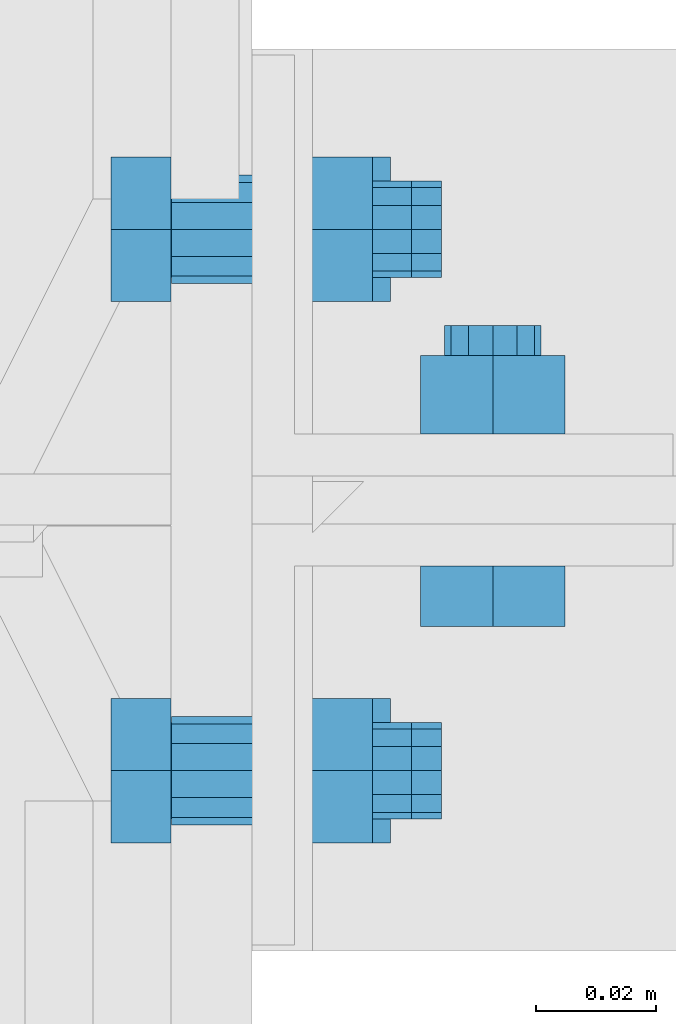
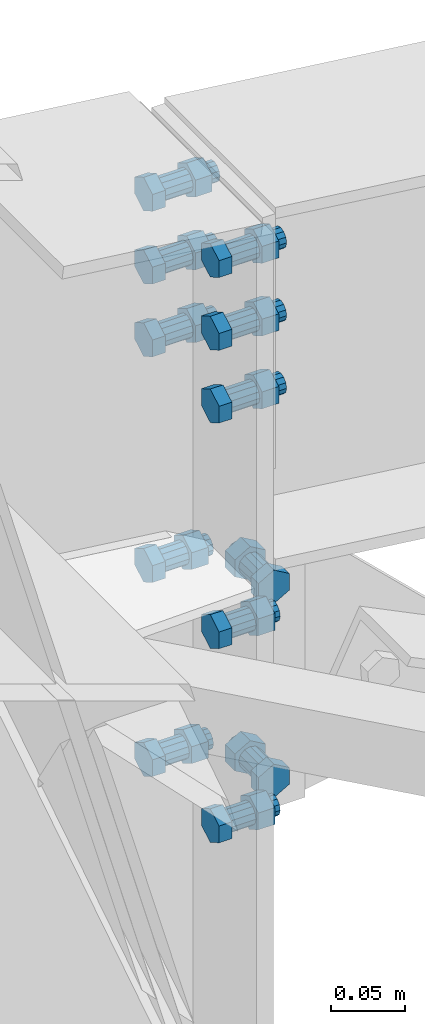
# One storey, part 284 of 3134: 4 mechanical fasteners, 3 elements without a shape of their own.
"""IFC2X3 building model written with IfcOpenShell, lengths in millimetres."""

from ifc_helpers import new_model, si_unit, frame, origin_with_axes, place, context, subcontext, project, spatial, faceted_brep, source, transform, mapped, material, type_object, element, aggregate, save


model = new_model("IFC2X3")

# Units and contexts
model_context = context("Model", 3, precision=1e-05, world=origin_with_axes())
body_context = subcontext(model_context, "Body", "Model", "MODEL_VIEW")
ifc_project = project(units=[si_unit("LENGTHUNIT", "METRE", prefix="MILLI"), si_unit("AREAUNIT", "SQUARE_METRE"), si_unit("VOLUMEUNIT", "CUBIC_METRE"), si_unit("MASSUNIT", "GRAM", prefix="KILO"), si_unit("TIMEUNIT", "SECOND"), si_unit("PLANEANGLEUNIT", "RADIAN"), si_unit("SOLIDANGLEUNIT", "STERADIAN"), si_unit("THERMODYNAMICTEMPERATUREUNIT", "DEGREE_CELSIUS"), si_unit("LUMINOUSINTENSITYUNIT", "LUMEN")], contexts=[model_context])

# Site, building, storey
site_placement = place(None, origin_with_axes())
site = spatial("IfcSite", under=ifc_project, at=site_placement, CompositionType="ELEMENT")
building_placement = place(site_placement, origin_with_axes())
building = spatial("IfcBuilding", under=site, at=building_placement, Name="Undefined", CompositionType="ELEMENT")
storey_placement = place(building_placement, origin_with_axes())
storey = spatial("IfcBuildingStorey", under=building, at=storey_placement, Name="Undefined", CompositionType="ELEMENT", Elevation=0.0)

# Assembly, mechanical fastener
assembly_1_placement = place(storey_placement, origin_with_axes())
assembly_1 = element("IfcElementAssembly", 1, at=assembly_1_placement, inside=storey, Name="IPE400", AssemblyPlace="NOTDEFINED", PredefinedType="RIGID_FRAME")
ifc_material = material(Name="8.8")
mechanical_fastener_type = type_object("IfcMechanicalFastenerType", Name="Bolt assembly")
shared_shape_1 = source(origin_with_axes(), body_context, "Body", "Brep", [
    faceted_brep([(13.856406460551, -33.499999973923, 0.0), (6.92820323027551, -33.499999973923, 12.0), (-6.92820323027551, -33.499999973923, 12.0), (-13.856406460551, -33.499999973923, 1.69692038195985e-15), (-6.92820323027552, -33.499999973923, -12.0), (6.9282032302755, -33.499999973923, -12.0), (6.9282032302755, -23.499999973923, -12.0), (-6.92820323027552, -23.499999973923, -12.0), (-13.856406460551, -23.499999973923, 1.69692038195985e-15), (-6.92820323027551, -23.499999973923, 12.0), (6.92820323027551, -23.499999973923, 12.0), (13.856406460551, -23.499999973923, 0.0), (8.0, -23.499999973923, 0.0), (6.92820323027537, -23.499999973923, 4.00000000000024), (3.99999999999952, -23.499999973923, 6.92820323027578), (-8.29068785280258e-13, -23.499999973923, 8.0), (-4.00000000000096, -23.499999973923, 6.92820323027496), (-6.9282032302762, -23.499999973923, 3.99999999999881), (-8.0, -23.499999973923, -1.65813757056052e-12), (-6.92820323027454, -23.499999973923, -4.00000000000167), (-3.99999999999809, -23.499999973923, -6.92820323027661), (2.47832457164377e-12, -23.499999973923, -8.0), (4.00000000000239, -23.499999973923, -6.92820323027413), (6.92820323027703, -23.499999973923, -3.99999999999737), (6.92820323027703, 21.500000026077, -3.99999999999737), (4.00000000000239, 21.500000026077, -6.92820323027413), (2.47832457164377e-12, 21.500000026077, -8.0), (-3.99999999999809, 21.500000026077, -6.92820323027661), (-6.92820323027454, 21.500000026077, -4.00000000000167), (-8.0, 21.500000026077, -1.65813757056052e-12), (-6.9282032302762, 21.500000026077, 3.99999999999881), (-4.00000000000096, 21.500000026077, 6.92820323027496), (-8.29068785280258e-13, 21.500000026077, 8.0), (3.99999999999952, 21.500000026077, 6.92820323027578), (6.92820323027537, 21.500000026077, 4.00000000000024), (8.0, 21.500000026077, 0.0), (13.856406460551, 0.0, 0.0), (6.92820323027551, 0.0, 12.0), (-6.92820323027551, 0.0, 12.0), (-13.856406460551, 0.0, 1.69692038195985e-15), (-6.92820323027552, 0.0, -12.0), (6.9282032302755, 0.0, -12.0), (6.9282032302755, 12.9999996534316, -12.0), (-6.92820323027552, 12.9999996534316, -12.0), (-13.856406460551, 12.9999996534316, 1.69692038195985e-15), (-6.92820323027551, 12.9999996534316, 12.0), (6.92820323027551, 12.9999996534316, 12.0), (13.856406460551, 12.9999996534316, 0.0)], [[[0, 1, 2, 3, 4, 5]], [[6, 7, 8, 9, 10, 11]], [[0, 11, 10, 1]], [[1, 10, 9, 2]], [[2, 9, 8, 3]], [[3, 8, 7, 4]], [[4, 7, 6, 5]], [[5, 6, 11, 0]], [[12, 13, 14, 15, 16, 17, 18, 19, 20, 21, 22, 23]], [[24, 25, 26, 27, 28, 29, 30, 31, 32, 33, 34, 35]], [[12, 35, 34, 13]], [[13, 34, 33, 14]], [[14, 33, 32, 15]], [[15, 32, 31, 16]], [[16, 31, 30, 17]], [[17, 30, 29, 18]], [[18, 29, 28, 19]], [[19, 28, 27, 20]], [[20, 27, 26, 21]], [[21, 26, 25, 22]], [[22, 25, 24, 23]], [[23, 24, 35, 12]], [[36, 37, 38, 39, 40, 41]], [[42, 43, 44, 45, 46, 47]], [[36, 47, 46, 37]], [[37, 46, 45, 38]], [[38, 45, 44, 39]], [[39, 44, 43, 40]], [[40, 43, 42, 41]], [[41, 42, 47, 36]]]),
    faceted_brep([(9.0, -10.1000003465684, 0.0), (7.79422863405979, -10.1000003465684, 4.50000000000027), (4.49999999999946, -10.1000003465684, 7.79422863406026), (-9.3270238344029e-13, -10.1000003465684, 9.0), (-4.50000000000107, -10.1000003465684, 7.79422863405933), (-7.79422863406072, -10.1000003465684, 4.49999999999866), (-9.0, -10.1000003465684, -1.86540476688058e-12), (-7.79422863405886, -10.1000003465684, -4.50000000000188), (-4.49999999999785, -10.1000003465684, -7.79422863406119), (2.78811514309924e-12, -10.1000003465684, -9.0), (4.50000000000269, -10.1000003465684, -7.7942286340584), (7.79422863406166, -10.1000003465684, -4.49999999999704), (7.79422863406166, -3.46568413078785e-07, -4.49999999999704), (4.50000000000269, -3.46568413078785e-07, -7.7942286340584), (2.78811514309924e-12, -3.46568413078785e-07, -9.0), (-4.49999999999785, -3.46568413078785e-07, -7.79422863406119), (-7.79422863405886, -3.46568413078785e-07, -4.50000000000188), (-9.0, -3.46568413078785e-07, -1.86540476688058e-12), (-7.79422863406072, -3.46568413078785e-07, 4.49999999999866), (-4.50000000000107, -3.46568413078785e-07, 7.79422863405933), (-9.3270238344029e-13, -3.46568413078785e-07, 9.0), (4.49999999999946, -3.46568413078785e-07, 7.79422863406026), (7.79422863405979, -3.46568413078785e-07, 4.50000000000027), (9.0, -3.46568413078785e-07, 0.0), (9.0, -23.399999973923, 0.0), (7.79422863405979, -23.399999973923, 4.50000000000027), (4.49999999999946, -23.399999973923, 7.79422863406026), (-9.3270238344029e-13, -23.399999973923, 9.0), (-4.50000000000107, -23.399999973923, 7.79422863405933), (-7.79422863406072, -23.399999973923, 4.49999999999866), (-9.0, -23.399999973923, -1.86540476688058e-12), (-7.79422863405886, -23.399999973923, -4.50000000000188), (-4.49999999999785, -23.399999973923, -7.79422863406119), (2.78811514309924e-12, -23.399999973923, -9.0), (4.50000000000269, -23.399999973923, -7.7942286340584), (7.79422863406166, -23.399999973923, -4.49999999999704), (7.79422863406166, -9.89999997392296, -4.49999999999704), (4.50000000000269, -9.89999997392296, -7.7942286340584), (2.78811514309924e-12, -9.89999997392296, -9.0), (-4.49999999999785, -9.89999997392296, -7.79422863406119), (-7.79422863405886, -9.89999997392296, -4.50000000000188), (-9.0, -9.89999997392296, -1.86540476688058e-12), (-7.79422863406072, -9.89999997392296, 4.49999999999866), (-4.50000000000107, -9.89999997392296, 7.79422863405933), (-9.3270238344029e-13, -9.89999997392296, 9.0), (4.49999999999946, -9.89999997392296, 7.79422863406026), (7.79422863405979, -9.89999997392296, 4.50000000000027), (9.0, -9.89999997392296, 0.0)], [[[0, 1, 2, 3, 4, 5, 6, 7, 8, 9, 10, 11]], [[12, 13, 14, 15, 16, 17, 18, 19, 20, 21, 22, 23]], [[0, 23, 22, 1]], [[1, 22, 21, 2]], [[2, 21, 20, 3]], [[3, 20, 19, 4]], [[4, 19, 18, 5]], [[5, 18, 17, 6]], [[6, 17, 16, 7]], [[7, 16, 15, 8]], [[8, 15, 14, 9]], [[9, 14, 13, 10]], [[10, 13, 12, 11]], [[11, 12, 23, 0]], [[24, 25, 26, 27, 28, 29, 30, 31, 32, 33, 34, 35]], [[36, 37, 38, 39, 40, 41, 42, 43, 44, 45, 46, 47]], [[24, 47, 46, 25]], [[25, 46, 45, 26]], [[26, 45, 44, 27]], [[27, 44, 43, 28]], [[28, 43, 42, 29]], [[29, 42, 41, 30]], [[30, 41, 40, 31]], [[31, 40, 39, 32]], [[32, 39, 38, 33]], [[33, 38, 37, 34]], [[34, 37, 36, 35]], [[35, 36, 47, 24]]]),
])
mechanical_fastener_1_placement = place(assembly_1_placement, frame((44475.0000003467, 61050.0, 5615.41113576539), z_axis=(0.0, 1.0, 0.0), x_axis=(0.0, 0.0, 1.0)))
mechanical_fastener_1 = element("IfcMechanicalFastener", 2, at=mechanical_fastener_1_placement, type_object=mechanical_fastener_type, material=ifc_material, Name="Bolt assembly", NominalDiameter=16.0, NominalLength=45.0, context=body_context, shape_type="MappedRepresentation", body=[
    mapped(shared_shape_1, transform((0.0, 0.0, -45.0))),
    mapped(shared_shape_1, transform((60.0, 0.0, -45.0))),
    mapped(shared_shape_1, transform((120.0, 0.0, -45.0))),
    mapped(shared_shape_1, transform((0.0, 0.0, 45.0))),
    mapped(shared_shape_1, transform((60.0, 0.0, 45.0))),
    mapped(shared_shape_1, transform((120.0, 0.0, 45.0))),
])
aggregate(assembly_1, [mechanical_fastener_1])

assembly_2_placement = place(storey_placement, origin_with_axes())
assembly_2 = element("IfcElementAssembly", 3, at=assembly_2_placement, inside=storey, AssemblyPlace="NOTDEFINED", PredefinedType="RIGID_FRAME")
shared_shape_2 = source(origin_with_axes(), body_context, "Body", "Brep", [
    faceted_brep([(13.856406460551, -21.0000017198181, 0.0), (6.92820323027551, -21.0000017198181, 12.0), (-6.92820323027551, -21.0000017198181, 12.0), (-13.856406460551, -21.0000017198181, 1.69692038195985e-15), (-6.92820323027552, -21.0000017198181, -12.0), (6.9282032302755, -21.0000017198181, -12.0), (6.9282032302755, -11.0000017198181, -12.0), (-6.92820323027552, -11.0000017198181, -12.0), (-13.856406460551, -11.0000017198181, 1.69692038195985e-15), (-6.92820323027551, -11.0000017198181, 12.0), (6.92820323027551, -11.0000017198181, 12.0), (13.856406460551, -11.0000017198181, 0.0), (8.0, -11.0000017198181, 0.0), (6.92820323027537, -11.0000017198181, 4.00000000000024), (3.99999999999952, -11.0000017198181, 6.92820323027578), (-8.29068785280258e-13, -11.0000017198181, 8.0), (-4.00000000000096, -11.0000017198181, 6.92820323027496), (-6.9282032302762, -11.0000017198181, 3.99999999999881), (-8.0, -11.0000017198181, -1.65813757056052e-12), (-6.92820323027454, -11.0000017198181, -4.00000000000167), (-3.99999999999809, -11.0000017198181, -6.92820323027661), (2.47832457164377e-12, -11.0000017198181, -8.0), (4.00000000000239, -11.0000017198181, -6.92820323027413), (6.92820323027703, -11.0000017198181, -3.99999999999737), (6.92820323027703, 29.0, -3.99999999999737), (4.00000000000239, 29.0, -6.92820323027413), (2.47832457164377e-12, 29.0, -8.0), (-3.99999999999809, 29.0, -6.92820323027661), (-6.92820323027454, 29.0, -4.00000000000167), (-8.0, 29.0, -1.65813757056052e-12), (-6.9282032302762, 29.0, 3.99999999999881), (-4.00000000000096, 29.0, 6.92820323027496), (-8.29068785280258e-13, 29.0, 8.0), (3.99999999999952, 29.0, 6.92820323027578), (6.92820323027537, 29.0, 4.00000000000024), (8.0, 29.0, 0.0), (13.856406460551, 10.9999982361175, 0.0), (6.92820323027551, 10.9999982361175, 12.0), (-6.92820323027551, 10.9999982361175, 12.0), (-13.856406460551, 10.9999982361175, 1.69692038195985e-15), (-6.92820323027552, 10.9999982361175, -12.0), (6.9282032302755, 10.9999982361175, -12.0), (6.9282032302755, 23.9999999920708, -12.0), (-6.92820323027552, 23.9999999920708, -12.0), (-13.856406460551, 23.9999999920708, 1.69692038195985e-15), (-6.92820323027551, 23.9999999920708, 12.0), (6.92820323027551, 23.9999999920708, 12.0), (13.856406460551, 23.9999999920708, 0.0)], [[[0, 1, 2, 3, 4, 5]], [[6, 7, 8, 9, 10, 11]], [[0, 11, 10, 1]], [[1, 10, 9, 2]], [[2, 9, 8, 3]], [[3, 8, 7, 4]], [[4, 7, 6, 5]], [[5, 6, 11, 0]], [[12, 13, 14, 15, 16, 17, 18, 19, 20, 21, 22, 23]], [[24, 25, 26, 27, 28, 29, 30, 31, 32, 33, 34, 35]], [[12, 35, 34, 13]], [[13, 34, 33, 14]], [[14, 33, 32, 15]], [[15, 32, 31, 16]], [[16, 31, 30, 17]], [[17, 30, 29, 18]], [[18, 29, 28, 19]], [[19, 28, 27, 20]], [[20, 27, 26, 21]], [[21, 26, 25, 22]], [[22, 25, 24, 23]], [[23, 24, 35, 12]], [[36, 37, 38, 39, 40, 41]], [[42, 43, 44, 45, 46, 47]], [[36, 47, 46, 37]], [[37, 46, 45, 38]], [[38, 45, 44, 39]], [[39, 44, 43, 40]], [[40, 43, 42, 41]], [[41, 42, 47, 36]]]),
    faceted_brep([(9.0, -3.99999624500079, 0.0), (7.79422863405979, -3.99999624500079, 4.50000000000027), (4.49999999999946, -3.99999624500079, 7.79422863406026), (-9.3270238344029e-13, -3.99999624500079, 9.0), (-4.50000000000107, -3.99999624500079, 7.79422863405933), (-7.79422863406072, -3.99999624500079, 4.49999999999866), (-9.0, -3.99999624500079, -1.86540476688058e-12), (-7.79422863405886, -3.99999624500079, -4.50000000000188), (-4.49999999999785, -3.99999624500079, -7.79422863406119), (2.78811514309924e-12, -3.99999624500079, -9.0), (4.50000000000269, -3.99999624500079, -7.7942286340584), (7.79422863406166, -3.99999624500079, -4.49999999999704), (7.79422863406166, 4.00000375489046, -4.49999999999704), (4.50000000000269, 4.00000375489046, -7.7942286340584), (2.78811514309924e-12, 4.00000375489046, -9.0), (-4.49999999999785, 4.00000375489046, -7.79422863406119), (-7.79422863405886, 4.00000375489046, -4.50000000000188), (-9.0, 4.00000375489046, -1.86540476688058e-12), (-7.79422863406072, 4.00000375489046, 4.49999999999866), (-4.50000000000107, 4.00000375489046, 7.79422863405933), (-9.3270238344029e-13, 4.00000375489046, 9.0), (4.49999999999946, 4.00000375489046, 7.79422863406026), (7.79422863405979, 4.00000375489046, 4.50000000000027), (9.0, 4.00000375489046, 0.0), (9.0, -10.9000017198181, 0.0), (7.79422863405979, -10.9000017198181, 4.50000000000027), (4.49999999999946, -10.9000017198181, 7.79422863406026), (-9.3270238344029e-13, -10.9000017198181, 9.0), (-4.50000000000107, -10.9000017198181, 7.79422863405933), (-7.79422863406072, -10.9000017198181, 4.49999999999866), (-9.0, -10.9000017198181, -1.86540476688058e-12), (-7.79422863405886, -10.9000017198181, -4.50000000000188), (-4.49999999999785, -10.9000017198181, -7.79422863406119), (2.78811514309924e-12, -10.9000017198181, -9.0), (4.50000000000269, -10.9000017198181, -7.7942286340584), (7.79422863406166, -10.9000017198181, -4.49999999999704), (7.79422863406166, -3.9, -4.49999999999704), (4.50000000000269, -3.9, -7.7942286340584), (2.78811514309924e-12, -3.9, -9.0), (-4.49999999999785, -3.9, -7.79422863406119), (-7.79422863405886, -3.9, -4.50000000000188), (-9.0, -3.9, -1.86540476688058e-12), (-7.79422863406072, -3.9, 4.49999999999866), (-4.50000000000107, -3.9, 7.79422863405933), (-9.3270238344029e-13, -3.9, 9.0), (4.49999999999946, -3.9, 7.79422863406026), (7.79422863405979, -3.9, 4.50000000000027), (9.0, -3.9, 0.0), (9.0, 3.9, 0.0), (7.79422863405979, 3.9, 4.50000000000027), (4.49999999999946, 3.9, 7.79422863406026), (-9.3270238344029e-13, 3.9, 9.0), (-4.50000000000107, 3.9, 7.79422863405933), (-7.79422863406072, 3.9, 4.49999999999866), (-9.0, 3.9, -1.86540476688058e-12), (-7.79422863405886, 3.9, -4.50000000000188), (-4.49999999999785, 3.9, -7.79422863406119), (2.78811514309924e-12, 3.9, -9.0), (4.50000000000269, 3.9, -7.7942286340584), (7.79422863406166, 3.9, -4.49999999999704), (7.79422863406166, 10.9999982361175, -4.49999999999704), (4.50000000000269, 10.9999982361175, -7.7942286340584), (2.78811514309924e-12, 10.9999982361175, -9.0), (-4.49999999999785, 10.9999982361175, -7.79422863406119), (-7.79422863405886, 10.9999982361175, -4.50000000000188), (-9.0, 10.9999982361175, -1.86540476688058e-12), (-7.79422863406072, 10.9999982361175, 4.49999999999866), (-4.50000000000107, 10.9999982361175, 7.79422863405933), (-9.3270238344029e-13, 10.9999982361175, 9.0), (4.49999999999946, 10.9999982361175, 7.79422863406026), (7.79422863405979, 10.9999982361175, 4.50000000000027), (9.0, 10.9999982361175, 0.0)], [[[0, 1, 2, 3, 4, 5, 6, 7, 8, 9, 10, 11]], [[12, 13, 14, 15, 16, 17, 18, 19, 20, 21, 22, 23]], [[0, 23, 22, 1]], [[1, 22, 21, 2]], [[2, 21, 20, 3]], [[3, 20, 19, 4]], [[4, 19, 18, 5]], [[5, 18, 17, 6]], [[6, 17, 16, 7]], [[7, 16, 15, 8]], [[8, 15, 14, 9]], [[9, 14, 13, 10]], [[10, 13, 12, 11]], [[11, 12, 23, 0]], [[24, 25, 26, 27, 28, 29, 30, 31, 32, 33, 34, 35]], [[36, 37, 38, 39, 40, 41, 42, 43, 44, 45, 46, 47]], [[24, 47, 46, 25]], [[25, 46, 45, 26]], [[26, 45, 44, 27]], [[27, 44, 43, 28]], [[28, 43, 42, 29]], [[29, 42, 41, 30]], [[30, 41, 40, 31]], [[31, 40, 39, 32]], [[32, 39, 38, 33]], [[33, 38, 37, 34]], [[34, 37, 36, 35]], [[35, 36, 47, 24]], [[48, 49, 50, 51, 52, 53, 54, 55, 56, 57, 58, 59]], [[60, 61, 62, 63, 64, 65, 66, 67, 68, 69, 70, 71]], [[48, 71, 70, 49]], [[49, 70, 69, 50]], [[50, 69, 68, 51]], [[51, 68, 67, 52]], [[52, 67, 66, 53]], [[53, 66, 65, 54]], [[54, 65, 64, 55]], [[55, 64, 63, 56]], [[56, 63, 62, 57]], [[57, 62, 61, 58]], [[58, 61, 60, 59]], [[59, 60, 71, 48]]]),
])
mechanical_fastener_2_placement = place(assembly_2_placement, frame((44504.9999999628, 61050.0, 5429.36590687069), z_axis=(1.0, 0.0, 0.0), x_axis=(0.0, 0.0, -1.0)))
mechanical_fastener_2 = element("IfcMechanicalFastener", 4, at=mechanical_fastener_2_placement, type_object=mechanical_fastener_type, material=ifc_material, Name="Bolt assembly", NominalDiameter=16.0, NominalLength=40.0, context=body_context, shape_type="MappedRepresentation", body=[
    mapped(shared_shape_2, transform((0.0, 0.0, 0.0))),
    mapped(shared_shape_2, transform((160.0, 0.0, 0.0))),
])

assembly_3_placement = place(storey_placement, origin_with_axes())
assembly_3 = element("IfcElementAssembly", 5, at=assembly_3_placement, inside=storey, AssemblyPlace="NOTDEFINED", PredefinedType="RIGID_FRAME")
shared_shape_3 = source(origin_with_axes(), body_context, "Body", "Brep", [
    faceted_brep([(13.856406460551, -23.499999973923, 0.0), (6.92820323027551, -23.499999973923, 12.0), (-6.92820323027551, -23.499999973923, 12.0), (-13.856406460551, -23.499999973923, 1.69692038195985e-15), (-6.92820323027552, -23.499999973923, -12.0), (6.9282032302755, -23.499999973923, -12.0), (6.9282032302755, -13.4999999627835, -12.0), (-6.92820323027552, -13.4999999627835, -12.0), (-13.856406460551, -13.4999999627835, 1.69692038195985e-15), (-6.92820323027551, -13.4999999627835, 12.0), (6.92820323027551, -13.4999999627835, 12.0), (13.856406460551, -13.4999999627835, 0.0), (8.0, -13.4999999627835, 0.0), (6.92820323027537, -13.4999999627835, 4.00000000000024), (3.99999999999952, -13.4999999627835, 6.92820323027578), (-8.29068785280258e-13, -13.4999999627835, 8.0), (-4.00000000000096, -13.4999999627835, 6.92820323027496), (-6.9282032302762, -13.4999999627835, 3.99999999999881), (-8.0, -13.4999999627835, -1.65813757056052e-12), (-6.92820323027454, -13.4999999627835, -4.00000000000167), (-3.99999999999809, -13.4999999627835, -6.92820323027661), (2.47832457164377e-12, -13.4999999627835, -8.0), (4.00000000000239, -13.4999999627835, -6.92820323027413), (6.92820323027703, -13.4999999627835, -3.99999999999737), (6.92820323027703, 26.5000000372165, -3.99999999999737), (4.00000000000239, 26.5000000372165, -6.92820323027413), (2.47832457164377e-12, 26.5000000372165, -8.0), (-3.99999999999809, 26.5000000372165, -6.92820323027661), (-6.92820323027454, 26.5000000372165, -4.00000000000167), (-8.0, 26.5000000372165, -1.65813757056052e-12), (-6.9282032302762, 26.5000000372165, 3.99999999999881), (-4.00000000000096, 26.5000000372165, 6.92820323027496), (-8.29068785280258e-13, 26.5000000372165, 8.0), (3.99999999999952, 26.5000000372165, 6.92820323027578), (6.92820323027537, 26.5000000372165, 4.00000000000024), (8.0, 26.5000000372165, 0.0), (13.856406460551, 7.0, 0.0), (6.92820323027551, 7.0, 12.0), (-6.92820323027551, 7.0, 12.0), (-13.856406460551, 7.0, 1.69692038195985e-15), (-6.92820323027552, 7.0, -12.0), (6.9282032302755, 7.0, -12.0), (6.9282032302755, 20.0, -12.0), (-6.92820323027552, 20.0, -12.0), (-13.856406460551, 20.0, 1.69692038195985e-15), (-6.92820323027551, 20.0, 12.0), (6.92820323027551, 20.0, 12.0), (13.856406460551, 20.0, 0.0)], [[[0, 1, 2, 3, 4, 5]], [[6, 7, 8, 9, 10, 11]], [[0, 11, 10, 1]], [[1, 10, 9, 2]], [[2, 9, 8, 3]], [[3, 8, 7, 4]], [[4, 7, 6, 5]], [[5, 6, 11, 0]], [[12, 13, 14, 15, 16, 17, 18, 19, 20, 21, 22, 23]], [[24, 25, 26, 27, 28, 29, 30, 31, 32, 33, 34, 35]], [[12, 35, 34, 13]], [[13, 34, 33, 14]], [[14, 33, 32, 15]], [[15, 32, 31, 16]], [[16, 31, 30, 17]], [[17, 30, 29, 18]], [[18, 29, 28, 19]], [[19, 28, 27, 20]], [[20, 27, 26, 21]], [[21, 26, 25, 22]], [[22, 25, 24, 23]], [[23, 24, 35, 12]], [[36, 37, 38, 39, 40, 41]], [[42, 43, 44, 45, 46, 47]], [[36, 47, 46, 37]], [[37, 46, 45, 38]], [[38, 45, 44, 39]], [[39, 44, 43, 40]], [[40, 43, 42, 41]], [[41, 42, 47, 36]]]),
    faceted_brep([(9.0, -13.3999999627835, 0.0), (7.79422863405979, -13.3999999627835, 4.50000000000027), (4.49999999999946, -13.3999999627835, 7.79422863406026), (-9.3270238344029e-13, -13.3999999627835, 9.0), (-4.50000000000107, -13.3999999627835, 7.79422863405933), (-7.79422863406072, -13.3999999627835, 4.49999999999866), (-9.0, -13.3999999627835, -1.86540476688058e-12), (-7.79422863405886, -13.3999999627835, -4.50000000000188), (-4.49999999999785, -13.3999999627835, -7.79422863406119), (2.78811514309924e-12, -13.3999999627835, -9.0), (4.50000000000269, -13.3999999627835, -7.7942286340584), (7.79422863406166, -13.3999999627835, -4.49999999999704), (7.79422863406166, 0.100000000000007, -4.49999999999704), (4.50000000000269, 0.100000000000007, -7.7942286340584), (2.78811514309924e-12, 0.100000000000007, -9.0), (-4.49999999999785, 0.100000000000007, -7.79422863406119), (-7.79422863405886, 0.100000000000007, -4.50000000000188), (-9.0, 0.100000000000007, -1.86540476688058e-12), (-7.79422863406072, 0.100000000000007, 4.49999999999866), (-4.50000000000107, 0.100000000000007, 7.79422863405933), (-9.3270238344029e-13, 0.100000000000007, 9.0), (4.49999999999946, 0.100000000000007, 7.79422863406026), (7.79422863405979, 0.100000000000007, 4.50000000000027), (9.0, 0.100000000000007, 0.0), (9.0, -0.1, 0.0), (7.79422863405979, -0.1, 4.50000000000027), (4.49999999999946, -0.1, 7.79422863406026), (-9.3270238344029e-13, -0.1, 9.0), (-4.50000000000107, -0.1, 7.79422863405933), (-7.79422863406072, -0.1, 4.49999999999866), (-9.0, -0.1, -1.86540476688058e-12), (-7.79422863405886, -0.1, -4.50000000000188), (-4.49999999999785, -0.1, -7.79422863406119), (2.78811514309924e-12, -0.1, -9.0), (4.50000000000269, -0.1, -7.7942286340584), (7.79422863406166, -0.1, -4.49999999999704), (7.79422863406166, 7.0, -4.49999999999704), (4.50000000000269, 7.0, -7.7942286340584), (2.78811514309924e-12, 7.0, -9.0), (-4.49999999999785, 7.0, -7.79422863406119), (-7.79422863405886, 7.0, -4.50000000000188), (-9.0, 7.0, -1.86540476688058e-12), (-7.79422863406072, 7.0, 4.49999999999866), (-4.50000000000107, 7.0, 7.79422863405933), (-9.3270238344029e-13, 7.0, 9.0), (4.49999999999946, 7.0, 7.79422863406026), (7.79422863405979, 7.0, 4.50000000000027), (9.0, 7.0, 0.0)], [[[0, 1, 2, 3, 4, 5, 6, 7, 8, 9, 10, 11]], [[12, 13, 14, 15, 16, 17, 18, 19, 20, 21, 22, 23]], [[0, 23, 22, 1]], [[1, 22, 21, 2]], [[2, 21, 20, 3]], [[3, 20, 19, 4]], [[4, 19, 18, 5]], [[5, 18, 17, 6]], [[6, 17, 16, 7]], [[7, 16, 15, 8]], [[8, 15, 14, 9]], [[9, 14, 13, 10]], [[10, 13, 12, 11]], [[11, 12, 23, 0]], [[24, 25, 26, 27, 28, 29, 30, 31, 32, 33, 34, 35]], [[36, 37, 38, 39, 40, 41, 42, 43, 44, 45, 46, 47]], [[24, 47, 46, 25]], [[25, 46, 45, 26]], [[26, 45, 44, 27]], [[27, 44, 43, 28]], [[28, 43, 42, 29]], [[29, 42, 41, 30]], [[30, 41, 40, 31]], [[31, 40, 39, 32]], [[32, 39, 38, 33]], [[33, 38, 37, 34]], [[34, 37, 36, 35]], [[35, 36, 47, 24]]]),
])
mechanical_fastener_3_placement = place(assembly_3_placement, frame((44464.9999999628, 61050.0, 5429.36590689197), z_axis=(0.0, -1.0, 0.0), x_axis=(0.0, 0.0, -1.0)))
mechanical_fastener_3 = element("IfcMechanicalFastener", 6, at=mechanical_fastener_3_placement, type_object=mechanical_fastener_type, material=ifc_material, Name="Bolt assembly", NominalDiameter=16.0, NominalLength=40.0, context=body_context, shape_type="MappedRepresentation", body=[
    mapped(shared_shape_3, transform((0.0, 0.0, -45.0))),
    mapped(shared_shape_3, transform((160.0, 0.0, -45.0))),
])
aggregate(assembly_3, [mechanical_fastener_3])

# Mechanical fastener
mechanical_fastener_4_placement = place(assembly_2_placement, frame((44464.9999999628, 61050.0, 5429.36590689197), z_axis=(0.0, -1.0, 0.0), x_axis=(0.0, 0.0, -1.0)))
mechanical_fastener_4 = element("IfcMechanicalFastener", 7, at=mechanical_fastener_4_placement, type_object=mechanical_fastener_type, material=ifc_material, Name="Bolt assembly", NominalDiameter=16.0, NominalLength=40.0, context=body_context, shape_type="MappedRepresentation", body=[
    mapped(shared_shape_3, transform((0.0, 0.0, 45.0))),
    mapped(shared_shape_3, transform((160.0, 0.0, 45.0))),
])

aggregate(assembly_2, [mechanical_fastener_4, mechanical_fastener_2])

save(model, "model.ifc")
